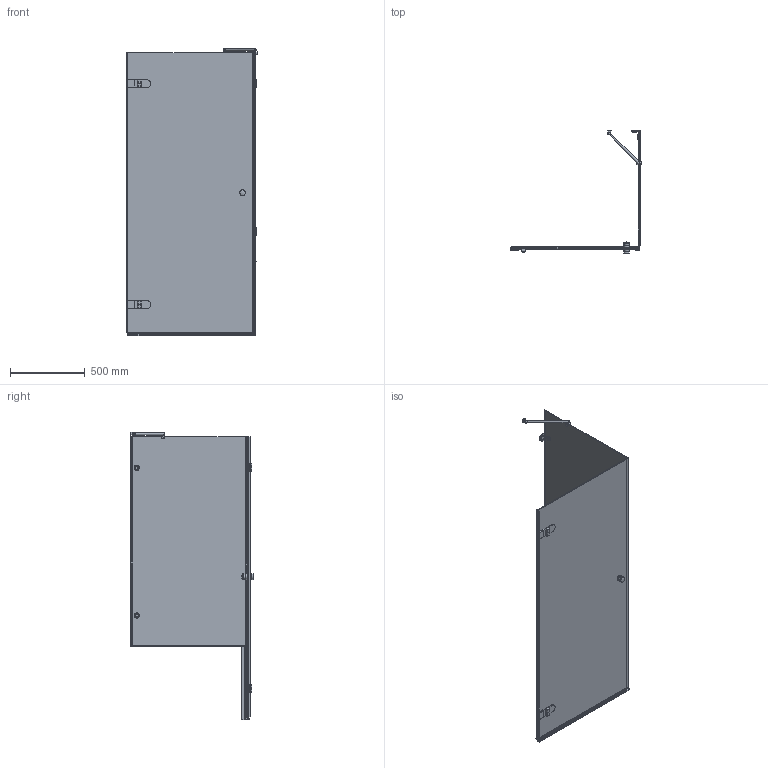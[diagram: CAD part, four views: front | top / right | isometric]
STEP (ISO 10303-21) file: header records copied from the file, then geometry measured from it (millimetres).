
FILE_DESCRIPTION(/* description */ (''),/* implementation_level */ '2;1');
FILE_NAME(/* name */ 'E:\Работа\Сергей\Душевые кабинки\! Работа\LUX SQUARE GK-002V-2511\LUX SQUARE GK-002V-2511 левая модель\LUX SQUARE GK-002V-2511 ЛЕВАЯ-3D.stp',/* time_stamp */ '2017-06-07T21:29:56+03:00',/* author */ ('PC'),/* organization */ (''),/* preprocessor_version */ 'ST-DEVELOPER v15.2',/* originating_system */ 'Autodesk Inventor 2014',/* authorisation */ '');
FILE_SCHEMA (('AUTOMOTIVE_DESIGN { 1 0 10303 214 3 1 1 }'));
Length unit declared in the file: millimetre
Products named in the file (1): LUX SQUARE GK-002V-2511 ЛЕВАЯ-3
D
Bounding box: 874.5 x 828 x 1931.49 mm (x, y, z)
Volume: 17357110.8 mm3; surface area: 5943979.7 mm2
Topology: 4 solids, 6 shells, 597 faces, 1597 edges, 1021 vertices
Faces by surface type: plane 407, cylinder 163, torus 11, bspline 8, sphere 6, cone 2
Full cylindrical faces by diameter (mm): 12 x1, 15 x1, 20 x2, 26 x1, 30 x2, 35 x2, 38 x4, 40 x2
Entity records: 19467 total; most frequent: CARTESIAN_POINT 3941, ORIENTED_EDGE 3120, DIRECTION 3044, EDGE_CURVE 1557, LINE 1132, VECTOR 1132, VERTEX_POINT 1009, AXIS2_PLACEMENT_3D 956
